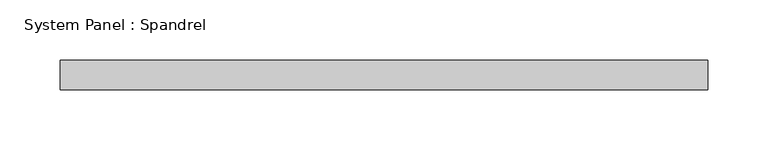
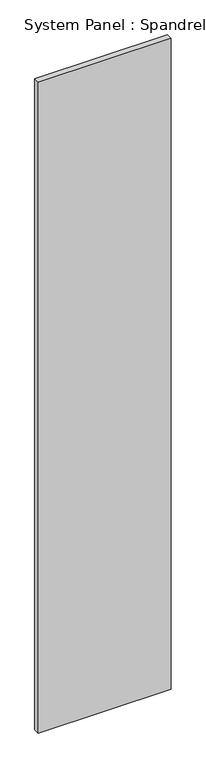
"""IFC4 building model written with IfcOpenShell, lengths in millimetres: plate geometry, System Panel : Spandrel."""

from ifc_helpers import new_model, si_unit, origin, origin_with_axes, place, context, project, spatial, polyline, outline, extrude, source, transform, mapped, element, save


def system_panel_spandrel_4cc4a01a(model_context):
    return source(origin(), model_context, "Body", "SweptSolid", [
        extrude(outline(polyline([(269.9999998, 0.0), (-269.9999998, 0.0), (-269.9999998, 25.0), (269.9999998, 25.0), (269.9999998, 0.0)])), origin_with_axes(), (0.0, 0.0, 1.0), 2800.0),
    ])


if __name__ == "__main__":
    model = new_model("IFC4")
    model_context = context("Model", 3, world=origin())
    ifc_project = project(units=[si_unit("LENGTHUNIT", "METRE", prefix="MILLI")], contexts=[model_context])
    site = spatial("IfcSite", under=ifc_project)
    building = spatial("IfcBuilding", under=site)
    placement = place(None, origin())
    system_panel_spandrel_shape = system_panel_spandrel_4cc4a01a(model_context)
    element("IfcPlate", 1, ObjectType="System Panel : Spandrel", at=placement, inside=building, context=model_context, shape_type="MappedRepresentation", body=[
        mapped(system_panel_spandrel_shape, transform((0.0, 0.0, 0.0), x_axis=(1.0, 0.0, 0.0), y_axis=(0.0, 1.0, 0.0), z_axis=(0.0, 0.0, 1.0))),
    ])
    save(model, "model.ifc")
